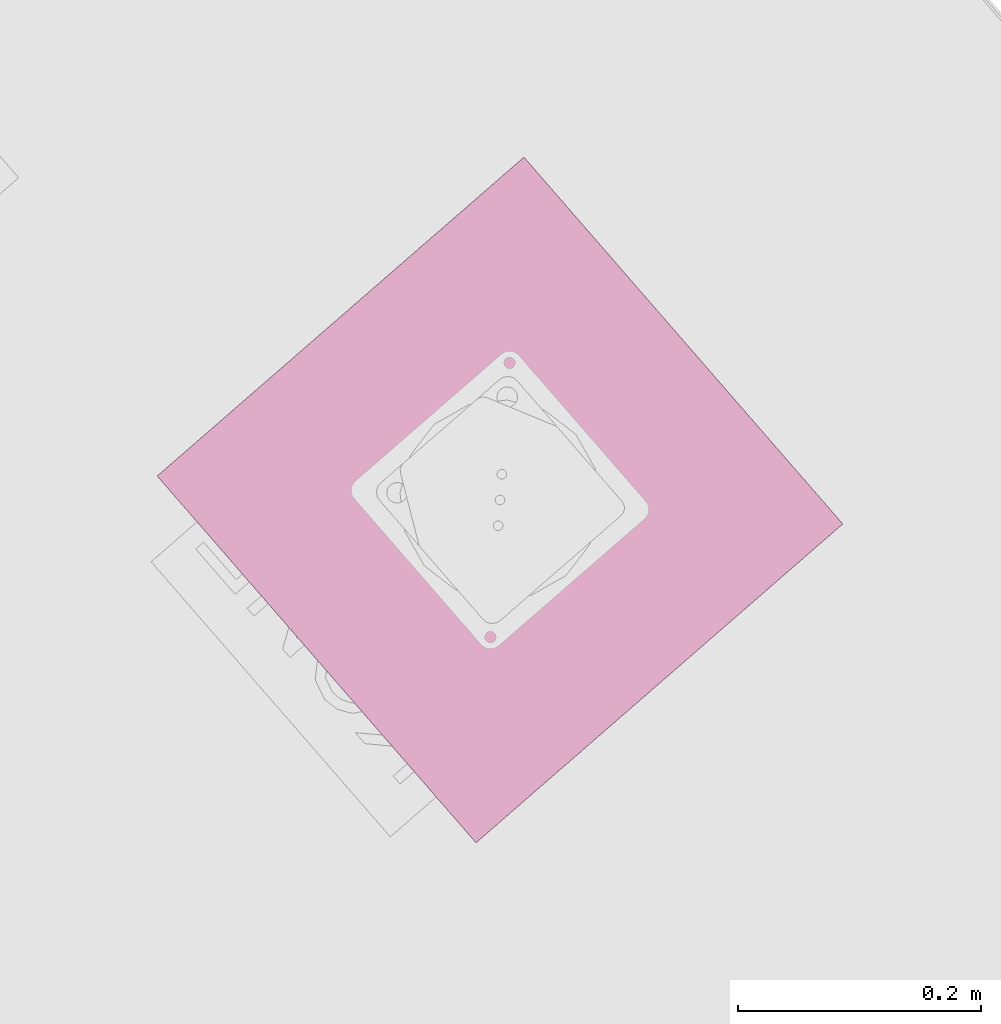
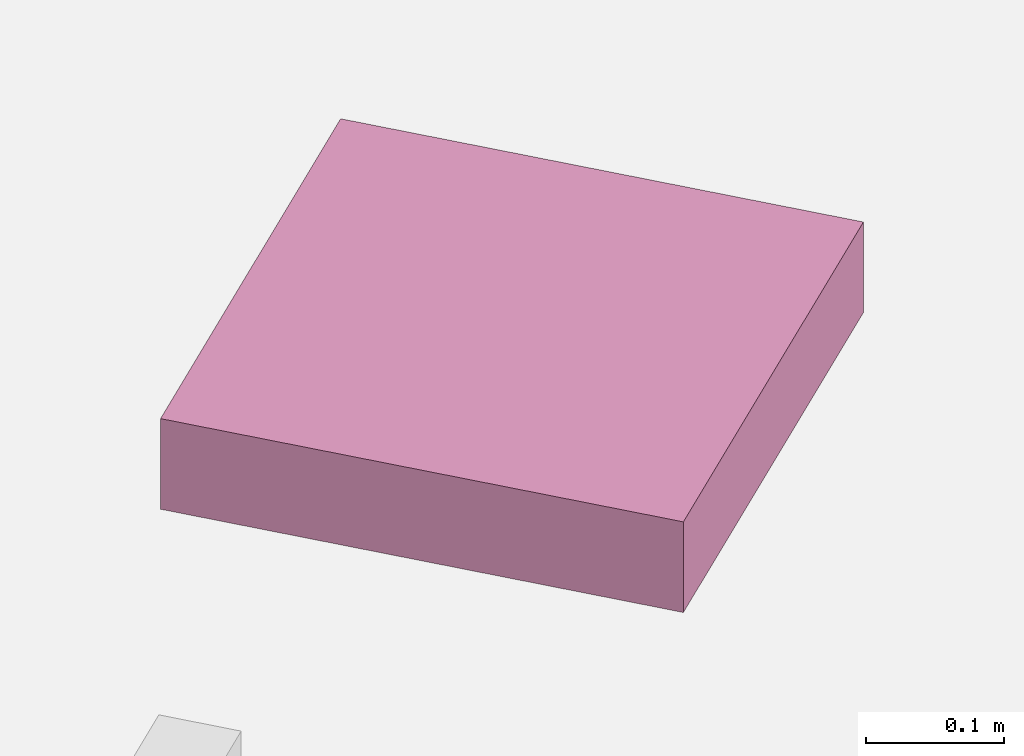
# One storey, part 114 of 124: 1 transport element.
"""IFC2X3 building model written with IfcOpenShell, lengths in millimetres."""

from ifc_helpers import new_model, entity, si_unit, converted_unit, derived_unit, money_unit, direction, frame, origin_with_axes, place, context, subcontext, project, spatial, faceted_brep, source, transform, mapped, type_object, element, save


model = new_model("IFC2X3")

# Units and contexts
model_context = context("Model", 3, precision=1e-05, world=origin_with_axes(), true_north=direction((0.0, 1.0)))
body_context = subcontext(model_context, "Body", "Model", "MODEL_VIEW")
ifc_project = project(units=[si_unit("LENGTHUNIT", "METRE", prefix="MILLI"), si_unit("AREAUNIT", "SQUARE_METRE"), si_unit("VOLUMEUNIT", "CUBIC_METRE"), converted_unit("PLANEANGLEUNIT", "DEGREE", entity("IfcPlaneAngleMeasure", 0.0174532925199), si_unit("PLANEANGLEUNIT", "RADIAN"), dimensions=[0, 0, 0, 0, 0, 0, 0]), si_unit("SOLIDANGLEUNIT", "STERADIAN"), money_unit("EUR"), converted_unit("TIMEUNIT", "Year", entity("IfcTimeMeasure", 31556926.0), si_unit("TIMEUNIT", "SECOND"), dimensions=[0, 0, 1, 0, 0, 0, 0]), si_unit("MASSUNIT", "GRAM", prefix="KILO"), si_unit("THERMODYNAMICTEMPERATUREUNIT", "DEGREE_CELSIUS"), si_unit("LUMINOUSINTENSITYUNIT", "LUMEN"), si_unit("ENERGYUNIT", "JOULE", prefix="MEGA"), derived_unit("THERMALCONDUCTANCEUNIT", [(si_unit("POWERUNIT", "WATT"), 1), (si_unit("LENGTHUNIT", "METRE"), -1), (si_unit("THERMODYNAMICTEMPERATUREUNIT", "KELVIN"), -1)]), derived_unit("SPECIFICHEATCAPACITYUNIT", [(si_unit("ENERGYUNIT", "JOULE"), 1), (si_unit("MASSUNIT", "GRAM", prefix="KILO"), -1), (si_unit("THERMODYNAMICTEMPERATUREUNIT", "KELVIN"), -1)]), derived_unit("MASSDENSITYUNIT", [(si_unit("MASSUNIT", "GRAM", prefix="KILO"), 1), (si_unit("VOLUMEUNIT", "CUBIC_METRE"), -1)])], contexts=[model_context])

# Site, building, storey
site_placement = place(None, origin_with_axes())
site = spatial("IfcSite", under=ifc_project, at=site_placement, Name="Site", CompositionType="ELEMENT")
building_placement = place(site_placement, origin_with_axes())
building = spatial("IfcBuilding", under=site, at=building_placement, Name="Building", CompositionType="ELEMENT")
storey_placement = place(building_placement, frame((0.0, 0.0, -1615.0), z_axis=(0.0, 0.0, 1.0), x_axis=(1.0, 0.0, 0.0)))
storey = spatial("IfcBuildingStorey", under=building, at=storey_placement, Name="0  korrus", CompositionType="ELEMENT", Elevation=-1615.0)

# Transport element
transport_element_type = type_object("IfcTransportElementType", Name="KONE_Hook_Embedded:KONE_Hook_Embedded", PredefinedType="NOTDEFINED")
shared_shape = source(origin_with_axes(), body_context, "Body", "Brep", [
    faceted_brep([(166.5, 208.5, 81.5952722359), (164.300038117, 208.210369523, 81.5952722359), (162.25, 207.361215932, 81.5952722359), (160.48959236, 206.01040764, 81.5952722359), (159.138784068, 204.25, 81.5952722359), (158.289630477, 202.199961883, 81.5952722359), (158.0, 200.0, 81.5952722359), (158.289630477, 197.800038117, 81.5952722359), (159.138784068, 195.75, 81.5952722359), (160.48959236, 193.98959236, 81.5952722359), (162.25, 192.638784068, 81.5952722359), (164.300038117, 191.789630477, 81.5952722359), (166.5, 191.5, 81.5952722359), (168.699961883, 191.789630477, 81.5952722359), (170.75, 192.638784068, 81.5952722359), (172.51040764, 193.98959236, 81.5952722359), (173.861215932, 195.75, 81.5952722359), (174.710369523, 197.800038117, 81.5952722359), (175.0, 200.0, 81.5952722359), (174.710369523, 202.199961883, 81.5952722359), (173.861215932, 204.25, 81.5952722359), (172.51040764, 206.01040764, 81.5952722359), (170.75, 207.361215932, 81.5952722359), (168.699961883, 208.210369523, 81.5952722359), (166.5, 208.5, 43.5952722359), (164.300038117, 208.210369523, 43.5952722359), (162.25, 207.361215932, 43.5952722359), (160.48959236, 206.01040764, 43.5952722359), (159.138784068, 204.25, 43.5952722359), (158.289630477, 202.199961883, 43.5952722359), (158.0, 200.0, 43.5952722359), (158.289630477, 197.800038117, 43.5952722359), (159.138784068, 195.75, 43.5952722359), (160.48959236, 193.98959236, 43.5952722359), (162.25, 192.638784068, 43.5952722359), (164.300038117, 191.789630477, 43.5952722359), (166.5, 191.5, 43.5952722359), (168.699961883, 191.789630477, 43.5952722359), (170.75, 192.638784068, 43.5952722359), (172.51040764, 193.98959236, 43.5952722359), (173.861215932, 195.75, 43.5952722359), (174.710369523, 197.800038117, 43.5952722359), (175.0, 200.0, 43.5952722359), (174.710369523, 202.199961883, 43.5952722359), (173.861215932, 204.25, 43.5952722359), (172.51040764, 206.01040764, 43.5952722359), (170.75, 207.361215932, 43.5952722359), (168.699961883, 208.210369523, 43.5952722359), (163.610679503, 207.344898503, 33.446130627), (161.809659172, 200.0, 29.3774306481), (159.904829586, 200.0, 36.486351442), (158.952414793, 200.0, 40.040811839), (163.635953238, 192.622830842, 33.5641172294), (166.96126726, 191.863528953, 29.3998944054), (172.251319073, 192.654841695, 34.4326313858), (172.228591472, 207.377425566, 34.3237089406), (166.908799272, 208.075472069, 29.035421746), (177.38728757, 200.0, 36.2479565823), (163.626933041, 200.0, 22.5952722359), (173.267388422, 191.59542235, 25.59149626), (173.241658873, 208.482247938, 24.3662461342), (169.138053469, 193.461914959, 19.8630559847), (178.559443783, 193.152038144, 24.8726904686), (177.049050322, 208.499995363, 19.204512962), (168.696753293, 206.451483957, 20.2761285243), (171.313466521, 200.0, 14.9087387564), (173.726458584, 193.859375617, 14.2648564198), (179.774575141, 200.0, 28.9006409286), (174.041753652, 205.984610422, 13.774604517), (186.024575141, 200.0, 24.3597501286), (181.261740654, 191.502762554, 16.0878882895), (179.228250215, 206.172954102, 10.1822071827), (181.944750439, 208.495441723, 15.7082314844), (179.0, 200.0, 7.22220527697), (181.938024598, 194.347747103, 8.07543109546), (189.167875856, 193.421919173, 17.6487989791), (188.508909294, 207.995822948, 15.2174447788), (186.514291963, 191.570649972, 11.7384689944), (186.221675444, 206.88983966, 7.66880063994), (189.5, 200.0, 4.40873875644), (192.274575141, 200.0, 19.8188593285), (192.619579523, 191.600336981, 9.58467364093), (199.112736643, 192.655929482, 14.3883053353), (193.734941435, 206.225442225, 16.6001271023), (194.491029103, 208.478669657, 9.94138885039), (200.0, 200.0, 19.8188593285), (199.149382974, 192.088260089, 6.99800772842), (200.0, 200.0, 1.59527223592), (206.265057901, 193.77455793, 16.6001271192), (200.8872622, 207.344070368, 14.3883055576), (200.850616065, 207.911740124, 6.99800824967), (205.508970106, 191.521330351, 9.94138860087), (207.725424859, 200.0, 19.8188593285), (210.5, 200.0, 4.40873875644), (211.491090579, 192.004177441, 15.2174458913), (210.507529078, 206.567275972, 17.5298650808), (207.380419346, 208.399663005, 9.58467330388), (213.778324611, 193.110160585, 7.668800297), (213.975424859, 200.0, 24.3597501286), (213.515302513, 208.18197238, 10.4408604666), (218.055250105, 191.504558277, 15.7082318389), (218.172480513, 208.489419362, 15.9586287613), (221.0, 200.0, 7.22220527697), (218.370700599, 205.722806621, 8.30571902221), (220.771750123, 193.827045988, 10.1822072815), (220.225424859, 200.0, 28.9006409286), (222.950950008, 191.500004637, 19.2045132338), (222.494752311, 208.367468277, 20.8291456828), (223.93391669, 206.820336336, 13.3458698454), (225.958246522, 194.01538959, 13.7746046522), (222.61271243, 200.0, 36.2479565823), (224.84326674, 200.0, 11.0654720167), (228.686533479, 200.0, 14.9087387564), (226.758341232, 191.517752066, 24.3662463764), (226.758341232, 208.482247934, 24.3662463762), (231.303246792, 206.451483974, 20.2761286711), (236.373066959, 200.0, 22.5952722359), (231.303246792, 193.548516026, 20.2761286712), (227.771408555, 192.622574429, 34.3237089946), (227.771408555, 207.377425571, 34.3237089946), (233.091200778, 208.075472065, 29.0354218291), (233.091200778, 191.924527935, 29.0354218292), (225.0, 200.0, 43.5952722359), (236.389320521, 207.344898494, 33.4461306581), (225.289630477, 197.800038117, 43.5952722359), (227.48959236, 193.98959236, 43.5952722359), (225.289630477, 202.199961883, 43.5952722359), (227.48959236, 206.01040764, 43.5952722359), (236.389320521, 192.655101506, 33.4461306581), (229.25, 207.361215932, 43.5952722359), (238.190340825, 200.0, 29.3774306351), (226.138784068, 195.75, 43.5952722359), (225.289630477, 197.800038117, 81.5952722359), (225.0, 200.0, 81.5952722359), (229.25, 192.638784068, 43.5952722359), (226.138784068, 204.25, 43.5952722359), (225.289630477, 202.199961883, 81.5952722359), (231.300038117, 208.210369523, 43.5952722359), (235.699961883, 208.210369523, 43.5952722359), (226.138784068, 195.75, 81.5952722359), (231.300038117, 208.210369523, 81.5952722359), (229.25, 207.361215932, 81.5952722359), (227.48959236, 206.01040764, 81.5952722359), (226.138784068, 204.25, 81.5952722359), (227.48959236, 193.98959236, 81.5952722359), (229.25, 192.638784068, 81.5952722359), (231.300038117, 191.789630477, 81.5952722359), (233.5, 191.5, 81.5952722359), (235.699961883, 191.789630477, 81.5952722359), (237.75, 192.638784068, 81.5952722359), (239.51040764, 193.98959236, 81.5952722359), (240.861215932, 195.75, 81.5952722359), (241.710369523, 197.800038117, 81.5952722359), (242.0, 200.0, 81.5952722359), (241.710369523, 202.199961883, 81.5952722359), (240.861215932, 204.25, 81.5952722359), (239.51040764, 206.01040764, 81.5952722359), (237.75, 207.361215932, 81.5952722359), (235.699961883, 208.210369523, 81.5952722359), (233.5, 208.5, 81.5952722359), (235.699961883, 191.789630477, 43.5952722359), (231.300038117, 191.789630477, 43.5952722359), (233.5, 208.5, 43.5952722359), (237.75, 207.361215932, 43.5952722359), (233.5, 191.5, 43.5952722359), (237.75, 192.638784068, 43.5952722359), (239.51040764, 193.98959236, 43.5952722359), (240.861215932, 195.75, 43.5952722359), (241.710369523, 197.800038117, 43.5952722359), (242.0, 200.0, 43.5952722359), (241.710369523, 202.199961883, 43.5952722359), (240.861215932, 204.25, 43.5952722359), (239.51040764, 206.01040764, 43.5952722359), (240.095170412, 200.0, 36.4863514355), (241.047585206, 200.0, 40.0408118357)], [[[0, 1, 2, 3, 4, 5, 6, 7, 8, 9, 10, 11, 12, 13, 14, 15, 16, 17, 18, 19, 20, 21, 22, 23]], [[1, 0, 24, 25]], [[26, 2, 1, 25]], [[27, 3, 2, 26]], [[27, 28, 4, 3]], [[4, 28, 29, 5]], [[5, 29, 30, 6]], [[31, 7, 6, 30]], [[32, 8, 7, 31]], [[32, 33, 9, 8]], [[9, 33, 34, 10]], [[10, 34, 35, 11]], [[11, 35, 36, 12]], [[13, 12, 36, 37]], [[38, 14, 13, 37]], [[39, 15, 14, 38]], [[39, 40, 16, 15]], [[16, 40, 41, 17]], [[17, 41, 42, 18]], [[43, 19, 18, 42]], [[44, 20, 19, 43]], [[44, 45, 21, 20]], [[21, 45, 46, 22]], [[22, 46, 47, 23]], [[23, 47, 24, 0]], [[25, 24, 48]], [[49, 26, 25]], [[50, 27, 26]], [[50, 28, 27]], [[28, 51, 29]], [[51, 30, 29]], [[31, 30, 51]], [[51, 32, 31]], [[32, 50, 33]], [[33, 50, 34]], [[34, 49, 35]], [[52, 36, 35]], [[37, 36, 52]], [[52, 38, 37]], [[38, 53, 39]], [[40, 39, 54]], [[40, 54, 41]], [[42, 41, 54]], [[42, 55, 43]], [[55, 44, 43]], [[44, 55, 45]], [[56, 46, 45]], [[48, 47, 46]], [[48, 24, 47]], [[49, 25, 48]], [[26, 49, 50]], [[50, 51, 28]], [[51, 50, 32]], [[34, 50, 49]], [[52, 35, 49]], [[53, 38, 52]], [[39, 53, 54]], [[42, 54, 57]], [[42, 57, 55]], [[55, 56, 45]], [[48, 46, 56]], [[49, 48, 58]], [[52, 49, 58]], [[58, 53, 52]], [[53, 59, 54]], [[59, 57, 54]], [[55, 57, 60]], [[60, 56, 55]], [[56, 58, 48]], [[58, 61, 53]], [[59, 53, 61]], [[62, 57, 59]], [[63, 60, 57]], [[64, 56, 60]], [[56, 64, 58]], [[61, 58, 65]], [[61, 66, 59]], [[57, 62, 67]], [[66, 62, 59]], [[63, 68, 60]], [[63, 57, 67]], [[68, 64, 60]], [[58, 64, 65]], [[66, 61, 65]], [[67, 62, 69]], [[70, 62, 66]], [[63, 71, 68]], [[63, 67, 72]], [[65, 64, 68]], [[73, 66, 65]], [[62, 70, 69]], [[69, 72, 67]], [[66, 74, 70]], [[71, 63, 72]], [[71, 73, 68]], [[65, 68, 73]], [[66, 73, 74]], [[69, 70, 75]], [[72, 69, 76]], [[74, 77, 70]], [[71, 72, 78]], [[71, 78, 73]], [[79, 74, 73]], [[77, 75, 70]], [[80, 69, 75]], [[69, 80, 76]], [[76, 78, 72]], [[74, 79, 77]], [[79, 73, 78]], [[77, 81, 75]], [[75, 82, 80]], [[76, 80, 83]], [[78, 76, 84]], [[79, 81, 77]], [[84, 79, 78]], [[75, 81, 82]], [[80, 82, 85]], [[83, 80, 85]], [[83, 84, 76]], [[79, 86, 81]], [[79, 84, 87]], [[86, 82, 81]], [[85, 82, 88]], [[83, 85, 89]], [[89, 84, 83]], [[87, 86, 79]], [[87, 84, 90]], [[91, 82, 86]], [[82, 91, 88]], [[88, 92, 85]], [[92, 89, 85]], [[84, 89, 90]], [[87, 91, 86]], [[87, 90, 93]], [[88, 91, 94]], [[94, 92, 88]], [[92, 95, 89]], [[90, 89, 96]], [[93, 91, 87]], [[93, 90, 96]], [[97, 94, 91]], [[98, 92, 94]], [[92, 98, 95]], [[96, 89, 95]], [[91, 93, 97]], [[99, 93, 96]], [[94, 97, 100]], [[100, 98, 94]], [[101, 95, 98]], [[95, 99, 96]], [[93, 102, 97]], [[93, 99, 103]], [[104, 100, 97]], [[98, 100, 105]], [[95, 101, 99]], [[98, 105, 101]], [[102, 93, 103]], [[104, 97, 102]], [[103, 99, 101]], [[104, 106, 100]], [[106, 105, 100]], [[101, 105, 107]], [[103, 108, 102]], [[102, 109, 104]], [[101, 108, 103]], [[106, 104, 109]], [[106, 110, 105]], [[110, 107, 105]], [[107, 108, 101]], [[102, 108, 111]], [[109, 102, 111, 112]], [[106, 109, 113]], [[106, 113, 110]], [[107, 110, 114]], [[108, 107, 114]], [[111, 108, 115]], [[116, 112, 111, 115]], [[112, 117, 109]], [[109, 117, 113]], [[118, 110, 113]], [[114, 110, 119]], [[108, 114, 115]], [[116, 117, 112]], [[116, 115, 120]], [[117, 121, 113]], [[122, 110, 118]], [[113, 121, 118]], [[122, 119, 110]], [[120, 114, 119]], [[120, 115, 114]], [[121, 117, 116]], [[116, 120, 123]], [[122, 118, 124]], [[118, 121, 125]], [[126, 119, 122]], [[119, 127, 120]], [[121, 116, 128]], [[129, 123, 120]], [[130, 116, 123]], [[131, 124, 118]], [[124, 132, 133, 122]], [[125, 121, 134]], [[131, 118, 125]], [[119, 126, 135]], [[136, 126, 122, 133]], [[127, 119, 135]], [[120, 127, 129]], [[130, 128, 116]], [[128, 134, 121]], [[123, 129, 137]], [[130, 123, 138]], [[131, 139, 132, 124]], [[140, 141, 142, 143, 136, 133, 132, 139, 144, 145, 146, 147, 148, 149, 150, 151, 152, 153, 154, 155, 156, 157, 158, 159]], [[144, 125, 134, 145]], [[144, 139, 131, 125]], [[143, 135, 126, 136]], [[143, 142, 127, 135]], [[127, 142, 141, 129]], [[130, 160, 128]], [[128, 161, 134]], [[129, 141, 140, 137]], [[162, 123, 137]], [[123, 162, 138]], [[163, 130, 138]], [[145, 134, 161, 146]], [[161, 164, 147, 146]], [[160, 148, 147, 164]], [[165, 149, 148, 160]], [[166, 150, 149, 165]], [[151, 150, 166, 167]], [[151, 167, 168, 152]], [[152, 168, 169, 153]], [[170, 154, 153, 169]], [[171, 155, 154, 170]], [[156, 155, 171, 172]], [[156, 172, 163, 157]], [[157, 163, 138, 158]], [[138, 162, 159, 158]], [[137, 140, 159, 162]], [[165, 160, 130]], [[164, 128, 160]], [[128, 164, 161]], [[163, 173, 130]], [[166, 165, 173]], [[173, 167, 166]], [[167, 174, 168]], [[168, 174, 169]], [[170, 169, 174]], [[174, 171, 170]], [[173, 172, 171]], [[173, 163, 172]], [[165, 130, 173]], [[173, 174, 167]], [[174, 173, 171]]]),
    faceted_brep([(0.0, 400.0, 81.5952722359), (0.0, 0.0, 81.5952722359), (400.0, 0.0, 81.5952722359), (400.0, 400.0, 81.5952722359), (0.0, 400.0, 1.59527223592), (0.0, 0.0, 1.59527223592), (400.0, 0.0, 1.59527223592), (400.0, 400.0, 1.59527223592)], [[[0, 1, 2, 3]], [[1, 0, 4, 5]], [[2, 1, 5, 6]], [[3, 2, 6, 7]], [[0, 3, 7, 4]], [[4, 7, 6, 5]]]),
])
transport_element_placement = place(storey_placement, frame((147393.152948, 78444.485519, 10328.4047278), z_axis=(0.0, 0.0, 1.0), x_axis=(-0.656059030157, 0.754709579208, 0.0)))
element("IfcTransportElement", 1, at=transport_element_placement, inside=storey, type_object=transport_element_type, Name="KONE_Hook_Embedded:KONE_Hook_Embedded", ObjectType="KONE_Hook_Embedded", CapacityByNumber=0.0, CapacityByWeight=0.0, OperationType="ELEVATOR", context=body_context, shape_type="MappedRepresentation", body=[
    mapped(shared_shape, transform((0.0, 0.0, 0.0))),
])

save(model, "model.ifc")
